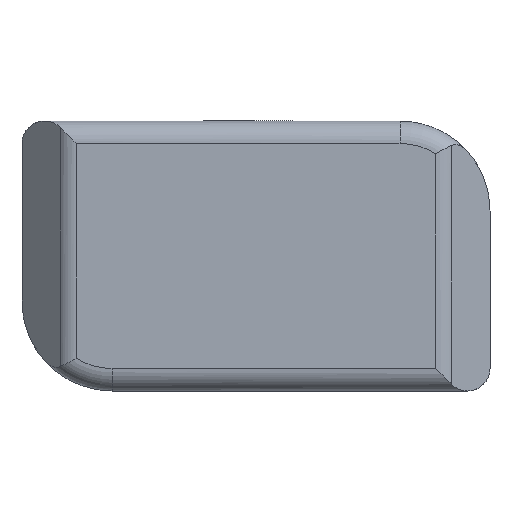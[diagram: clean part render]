
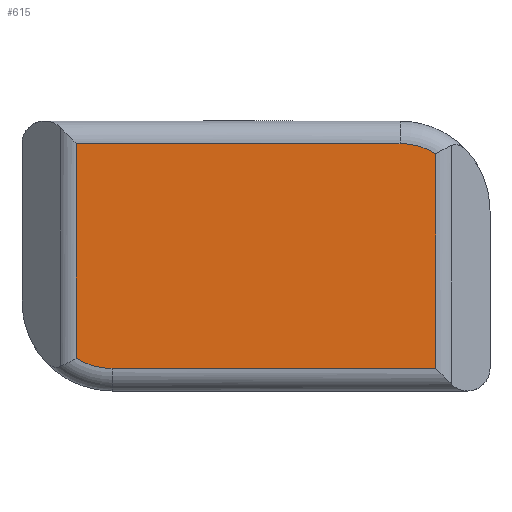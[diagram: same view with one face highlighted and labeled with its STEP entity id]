
A CAD part, front view. The second image highlights one B-rep face of the part: STEP entity #615.
In plain terms, the highlighted planar face has unit normal (0, -1, 0).
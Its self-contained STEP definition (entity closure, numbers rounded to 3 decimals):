
#4 = VECTOR ( 'NONE', #124, 1000. ) ;
#20 = CARTESIAN_POINT ( 'NONE',  ( -3.993, 0., 2.5 ) ) ;
#23 = EDGE_CURVE ( 'NONE', #437, #641, #105, .T. ) ;
#24 = DIRECTION ( 'NONE',  ( 0., 1., 0. ) ) ;
#58 = VERTEX_POINT ( 'NONE', #287 ) ;
#60 = ORIENTED_EDGE ( 'NONE', *, *, #229, .T. ) ;
#89 = DIRECTION ( 'NONE',  ( 0., 0., -1. ) ) ;
#105 = CIRCLE ( 'NONE', #304, 1.5 ) ;
#110 = EDGE_CURVE ( 'NONE', #641, #58, #607, .T. ) ;
#124 = DIRECTION ( 'NONE',  ( 0., 0., 1. ) ) ;
#126 = ORIENTED_EDGE ( 'NONE', *, *, #177, .T. ) ;
#130 = DIRECTION ( 'NONE',  ( 1., 0., 0. ) ) ;
#133 = CARTESIAN_POINT ( 'NONE',  ( 5.2, 0., -2.5 ) ) ;
#154 = CARTESIAN_POINT ( 'NONE',  ( -3.993, 0., -2.273 ) ) ;
#162 = LINE ( 'NONE', #507, #4 ) ;
#170 = LINE ( 'NONE', #194, #449 ) ;
#177 = EDGE_CURVE ( 'NONE', #58, #324, #162, .T. ) ;
#180 = FACE_OUTER_BOUND ( 'NONE', #447, .T. ) ;
#194 = CARTESIAN_POINT ( 'NONE',  ( -3.993, 0., -2.732 ) ) ;
#229 = EDGE_CURVE ( 'NONE', #324, #308, #455, .T. ) ;
#287 = CARTESIAN_POINT ( 'NONE',  ( 3.993, 0., -2.5 ) ) ;
#298 = ORIENTED_EDGE ( 'NONE', *, *, #551, .T. ) ;
#301 = DIRECTION ( 'NONE',  ( 0., 0., 1. ) ) ;
#304 = AXIS2_PLACEMENT_3D ( 'NONE', #322, #320, #316 ) ;
#308 = VERTEX_POINT ( 'NONE', #379 ) ;
#316 = DIRECTION ( 'NONE',  ( 0., 0., 1. ) ) ;
#320 = DIRECTION ( 'NONE',  ( 0., -1., 0. ) ) ;
#322 = CARTESIAN_POINT ( 'NONE',  ( -3.2, 0., -1. ) ) ;
#324 = VERTEX_POINT ( 'NONE', #534 ) ;
#343 = ORIENTED_EDGE ( 'NONE', *, *, #23, .T. ) ;
#354 = CARTESIAN_POINT ( 'NONE',  ( 5.2, 0., 2.5 ) ) ;
#358 = VECTOR ( 'NONE', #360, 1000. ) ;
#359 = CARTESIAN_POINT ( 'NONE',  ( 3.2, 0., 1. ) ) ;
#360 = DIRECTION ( 'NONE',  ( -1., 0., 0. ) ) ;
#379 = CARTESIAN_POINT ( 'NONE',  ( 3.2, 0., 2.5 ) ) ;
#407 = ORIENTED_EDGE ( 'NONE', *, *, #110, .T. ) ;
#425 = DIRECTION ( 'NONE',  ( 0., 0., 1. ) ) ;
#429 = CARTESIAN_POINT ( 'NONE',  ( -3.2, 0., -2.5 ) ) ;
#437 = VERTEX_POINT ( 'NONE', #154 ) ;
#443 = AXIS2_PLACEMENT_3D ( 'NONE', #664, #24, #425 ) ;
#447 = EDGE_LOOP ( 'NONE', ( #60, #298, #512, #343, #407, #126 ) ) ;
#449 = VECTOR ( 'NONE', #89, 1000. ) ;
#455 = CIRCLE ( 'NONE', #496, 1.5 ) ;
#465 = PLANE ( 'NONE',  #443 ) ;
#496 = AXIS2_PLACEMENT_3D ( 'NONE', #359, #653, #301 ) ;
#507 = CARTESIAN_POINT ( 'NONE',  ( 3.993, 0., 2.732 ) ) ;
#512 = ORIENTED_EDGE ( 'NONE', *, *, #647, .T. ) ;
#534 = CARTESIAN_POINT ( 'NONE',  ( 3.993, 0., 2.273 ) ) ;
#551 = EDGE_CURVE ( 'NONE', #308, #601, #622, .T. ) ;
#592 = VECTOR ( 'NONE', #130, 1000. ) ;
#601 = VERTEX_POINT ( 'NONE', #20 ) ;
#607 = LINE ( 'NONE', #133, #592 ) ;
#615 = ADVANCED_FACE ( 'NONE', ( #180 ), #465, .F. ) ;
#622 = LINE ( 'NONE', #354, #358 ) ;
#641 = VERTEX_POINT ( 'NONE', #429 ) ;
#647 = EDGE_CURVE ( 'NONE', #601, #437, #170, .T. ) ;
#653 = DIRECTION ( 'NONE',  ( 0., -1., 0. ) ) ;
#664 = CARTESIAN_POINT ( 'NONE',  ( 5.2, 0., 3. ) ) ;
